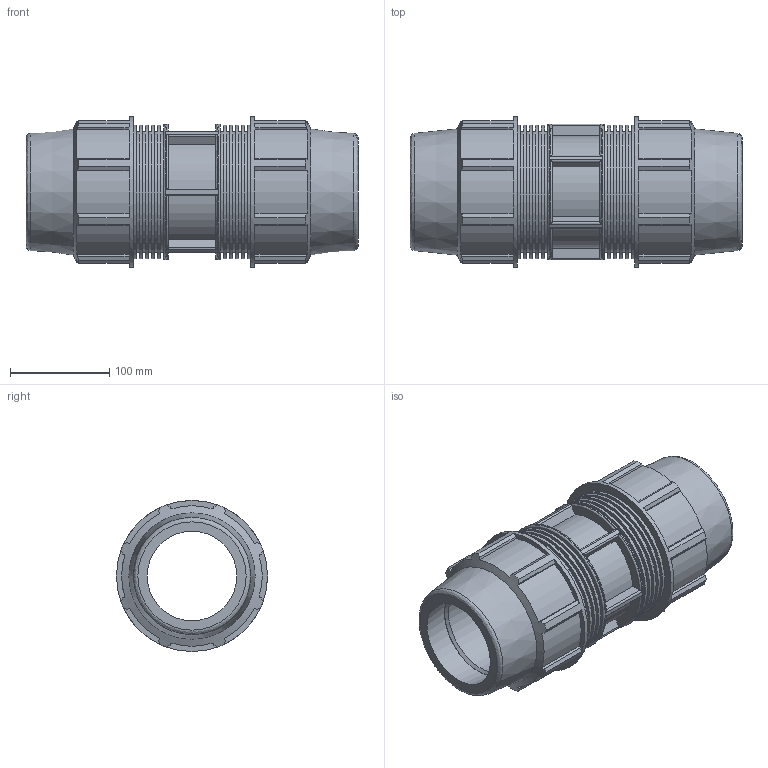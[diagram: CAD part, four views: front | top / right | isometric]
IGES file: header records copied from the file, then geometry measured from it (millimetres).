
Global section: file name: 876100090.ipt; native system: Autodesk Inventor 2015; preprocessor: unknown; author: KIM; date: 20170608.042738; units: millimetre
Bounding box: 334 x 152 x 152 mm (x, y, z)
Volume: 2346214 mm3; surface area: 326726.4 mm2
Topology: 1 solids, 1 shells, 212 faces, 551 edges, 370 vertices
Faces by surface type: plane 130, cylinder 57, revolution 21, cone 4
Full cylindrical faces by diameter (mm): 121.6 x10, 134.064 x10, 136.8 x1, 152 x2
